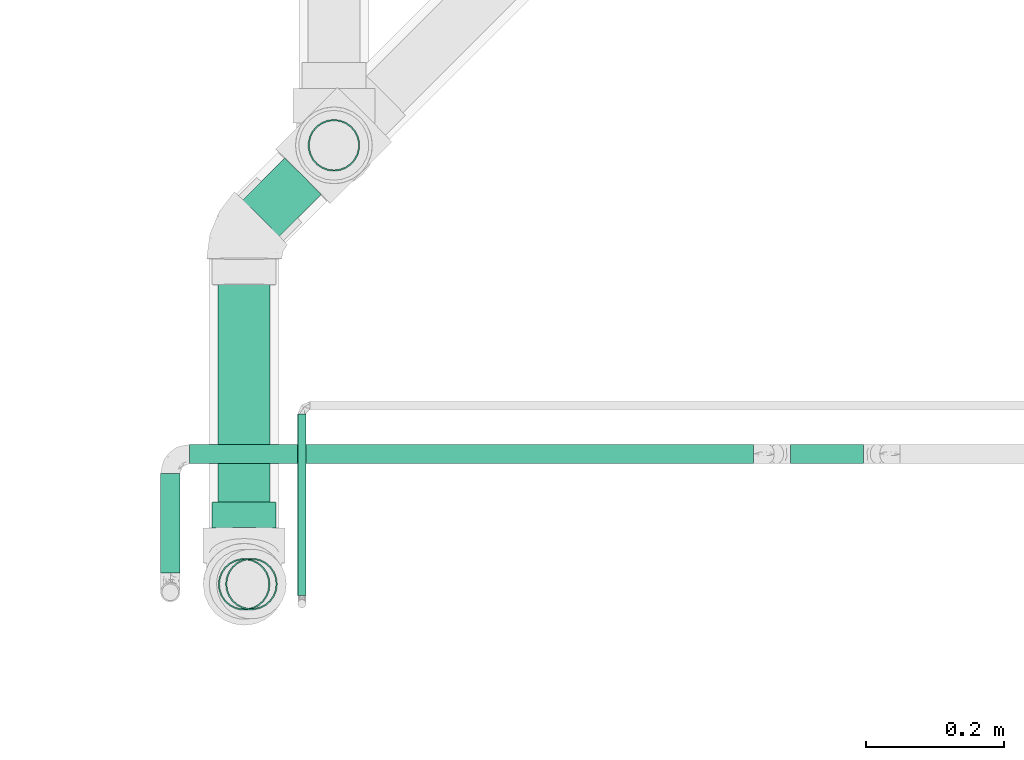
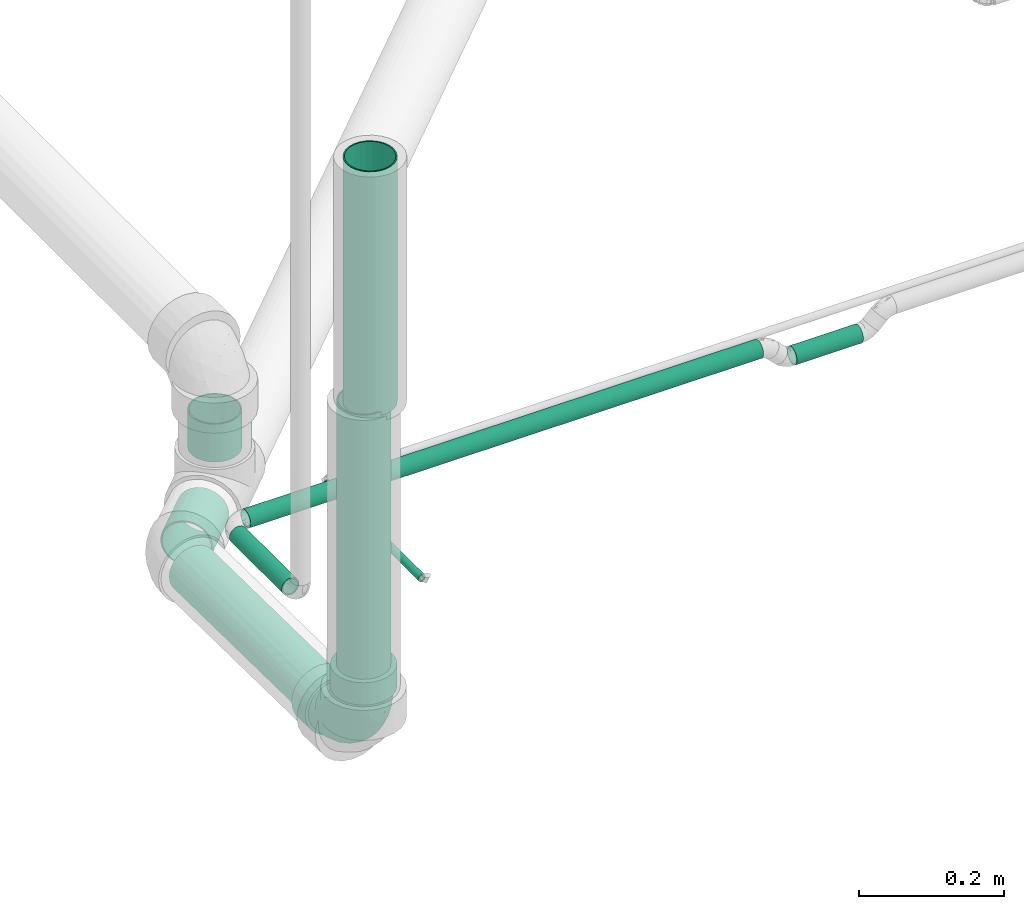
# One storey, part 54 of 156: 9 flow segments, 1 flow fitting.
"""IFC2X3 building model written with IfcOpenShell, lengths in millimetres."""

from ifc_helpers import new_model, entity, si_unit, converted_unit, derived_unit, direction, frame, origin_with_axes, origin_2d_with_axis, place, context, subcontext, project, spatial, hollow_circle, extrude, open_shell, surface_model, source, transform, mapped, type_object, element, save


model = new_model("IFC2X3")

# Units and contexts
model_context = context("Model", 3, precision=0.01, world=frame((0.0, 4.29681676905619e-09, 0.0)), true_north=direction((4.01073788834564e-13, 1.0)))
plan_context = context("Plan", 3, precision=0.01, world=frame((0.0, 4.29681676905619e-09, 0.0)), true_north=direction((4.01073788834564e-13, 1.0)))
body_context = subcontext(model_context, "Body", "Model", "MODEL_VIEW")
ifc_project = project(units=[converted_unit("PLANEANGLEUNIT", "DEGREE", entity("IfcPositiveLengthMeasure", 0.0174532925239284), si_unit("PLANEANGLEUNIT", "RADIAN"), dimensions=[0, 0, 0, 0, 0, 0, 0]), si_unit("AREAUNIT", "SQUARE_METRE"), si_unit("LENGTHUNIT", "METRE", prefix="MILLI"), si_unit("MASSUNIT", "GRAM", prefix="KILO"), si_unit("POWERUNIT", "WATT"), si_unit("PRESSUREUNIT", "PASCAL", prefix="KILO"), si_unit("FORCEUNIT", "NEWTON", prefix="KILO"), si_unit("ELECTRICVOLTAGEUNIT", "VOLT"), si_unit("ELECTRICCURRENTUNIT", "AMPERE"), si_unit("THERMODYNAMICTEMPERATUREUNIT", "DEGREE_CELSIUS"), si_unit("TIMEUNIT", "SECOND"), si_unit("VOLUMEUNIT", "CUBIC_METRE"), derived_unit("LINEARVELOCITYUNIT", [(si_unit("LENGTHUNIT", "METRE"), 1), (si_unit("TIMEUNIT", "SECOND"), -1)]), derived_unit("VOLUMETRICFLOWRATEUNIT", [(si_unit("VOLUMEUNIT", "CUBIC_METRE"), 1), (si_unit("TIMEUNIT", "SECOND"), -1)]), derived_unit("THERMALTRANSMITTANCEUNIT", [(si_unit("POWERUNIT", "WATT"), 1), (si_unit("THERMODYNAMICTEMPERATUREUNIT", "KELVIN"), -1), (si_unit("AREAUNIT", "SQUARE_METRE"), -1)]), derived_unit("SOUNDPRESSUREUNIT", [(si_unit("PRESSUREUNIT", "PASCAL"), 1)])], contexts=[model_context, plan_context])

# Site, building, storey
site_placement = place(None, frame((0.0, -4.29681676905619e-09, 0.0), z_axis=(0.0, 0.0, 1.0), x_axis=(1.0, 0.0, 0.0)))
site = spatial("IfcSite", under=ifc_project, at=site_placement, CompositionType="ELEMENT")
building_placement = place(site_placement, frame((0.0, 4.29681676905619e-09, 0.0), z_axis=(0.0, 0.0, 1.0), x_axis=(1.0, 0.0, 0.0)))
building = spatial("IfcBuilding", under=site, at=building_placement, Name="mc-building", CompositionType="ELEMENT")
storey_placement = place(building_placement, frame((0.0, 0.0, 205200.0), z_axis=(0.0, 0.0, 1.0), x_axis=(1.0, 0.0, 0.0)))
storey = spatial("IfcBuildingStorey", under=building, at=storey_placement, Name="Nivå D + 1,2 m", CompositionType="ELEMENT", Elevation=205200.0)

# Flow fitting
pipe_fitting_type = type_object("IfcPipeFittingType", Name="magi_sewer_bend_001", PredefinedType="BEND")
shared_shape_1 = source(origin_with_axes(), body_context, "Body", "SurfaceModel", [
    surface_model("IfcShellBasedSurfaceModel", [(-118.63645, -44.67407, -11.97038), (-118.63645, -11.97038, -44.67407), (-118.63645, -23.125, -40.05367), (-118.63645, -32.70369, -32.70369), (-118.63645, 0.0, -46.25), (-118.63645, -40.05367, -23.125), (-118.63645, -46.25, 0.0), (-118.63645, 11.97038, -44.67407), (-118.63645, 32.70369, -32.70369), (-118.63645, 23.125, -40.05367), (-118.63645, 44.67407, -11.97038), (-118.63645, 40.05367, -23.125), (-118.63645, -32.70369, 32.70369), (-118.63645, -44.67407, 11.97038), (-118.63645, -40.05367, 23.125), (-118.63645, 32.70369, 32.70369), (-118.63645, -23.125, 40.05367), (-118.63645, -11.97038, 44.67407), (-118.63645, 0.0, 46.25), (-118.63645, 44.67407, 11.97038), (-118.63645, 46.25, 0.0), (-118.63645, 40.05367, 23.125), (-118.63645, 11.97038, 44.67407), (-118.63645, 23.125, 40.05367), (-81.13645, 0.0, 46.25), (-81.13645, -11.97038, 44.67407), (-81.13645, -23.125, 40.05367), (-81.13645, -32.70369, 32.70369), (-81.13645, -40.05367, 23.125), (-81.13645, -44.67407, 11.97038), (-81.13645, 32.70369, 32.70369), (-81.13645, -44.67407, -11.97038), (-81.13645, 11.97038, 44.67407), (-81.13645, 23.125, 40.05367), (-81.13645, 44.67407, 11.97038), (-81.13645, 44.67407, -11.97038), (-81.13645, 46.25, 0.0), (-81.13645, 40.05367, 23.125), (-81.13645, -32.70369, -32.70369), (-81.13645, -40.05367, -23.125), (-81.13645, -23.125, -40.05367), (-81.13645, -11.97038, -44.67407), (-81.13645, 11.97038, -44.67407), (-81.13645, 32.70369, -32.70369), (-81.13645, 40.05367, -23.125), (-81.13645, 23.125, -40.05367), (-81.13645, 0.0, -46.25), (-81.13645, -46.25, 0.0), (-9.99172, 118.81946, 44.67407), (-42.69087, 119.36444, 11.97038), (-38.07111, 119.28745, 23.125), (-30.72215, 119.16497, 32.70369), (-30.72215, 119.16497, -32.70369), (-21.14479, 119.00535, 40.05367), (25.09879, 118.23462, -40.05367), (-9.99172, 118.81946, -44.67407), (-42.69087, 119.36444, -11.97038), (-38.07111, 119.28745, -23.125), (-44.26658, 119.39071, 0.0), (-21.14479, 119.00535, -40.05367), (1.977, 118.61999, 46.25), (34.67615, 118.075, 32.70369), (13.94572, 118.42051, 44.67407), (25.09879, 118.23462, 40.05367), (42.02511, 117.95251, 23.125), (46.64486, 117.87552, 11.97038), (48.22058, 117.84926, 0.0), (13.94572, 118.42051, -44.67407), (1.977, 118.61999, -46.25), (34.67615, 118.075, -32.70369), (46.64486, 117.87552, -11.97038), (42.02511, 117.95251, -23.125), (47.59566, 80.35446, 0.0), (46.01995, 80.38072, 11.97038), (41.4002, 80.45773, 23.125), (34.05123, 80.5802, 32.70369), (24.47388, 80.73983, 40.05367), (13.32081, 80.92571, 44.67407), (24.47388, 80.73983, -40.05367), (-10.61663, 81.32467, 44.67407), (46.01995, 80.38072, -11.97038), (34.05123, 80.5802, -32.70369), (41.4002, 80.45773, -23.125), (13.32081, 80.92571, -44.67407), (-10.61663, 81.32467, -44.67407), (1.35209, 81.12519, -46.25), (1.35209, 81.12519, 46.25), (-31.34706, 81.67018, 32.70369), (-21.7697, 81.51055, 40.05367), (-38.69603, 81.79266, 23.125), (-43.31578, 81.86966, -11.97038), (-43.31578, 81.86966, 11.97038), (-31.34706, 81.67018, -32.70369), (-21.7697, 81.51055, -40.05367), (-38.69603, 81.79266, -23.125), (-44.89149, 81.89592, 0.0), (-81.13645, 10.67629, -39.84444), (-81.13645, 0.0, -41.25), (-81.13645, 35.72355, -20.625), (-81.13645, 20.625, -35.72355), (-81.13645, -10.67629, -39.84444), (-81.13645, 29.16816, -29.16816), (-81.13645, 39.84444, -10.67629), (-81.13645, -29.16816, -29.16816), (-81.13645, -35.72355, -20.625), (-81.13645, -20.625, -35.72355), (-81.13645, -39.84444, -10.67629), (-81.13645, -41.25, 0.0), (-81.13645, -39.84444, 10.67629), (-81.13645, 41.25, 0.0), (-81.13645, 35.72355, 20.625), (-81.13645, 39.84444, 10.67629), (-81.13645, 10.67629, 39.84444), (-81.13645, 20.625, 35.72355), (-81.13645, 29.16816, 29.16816), (-81.13645, 0.0, 41.25), (-81.13645, -35.72355, 20.625), (-81.13645, -29.16816, 29.16816), (-81.13645, -10.67629, 39.84444), (-81.13645, -20.625, 35.72355), (-9.32272, 81.3031, -39.84444), (30.51619, 80.63912, 29.16816), (1.35209, 81.12519, -41.25), (-34.3665, 81.7205, -20.625), (-19.27005, 81.46889, -35.72355), (21.97422, 80.78149, -35.72355), (-27.81202, 81.61126, -29.16816), (-34.3665, 81.7205, 20.625), (30.51619, 80.63912, -29.16816), (12.02689, 80.94728, -39.84444), (41.191, 80.46121, -10.67629), (41.191, 80.46121, 10.67629), (42.59636, 80.43779, 0.0), (37.07067, 80.52988, -20.625), (-38.48682, 81.78918, -10.67629), (-39.89219, 81.81259, 0.0), (-38.48682, 81.78918, 10.67629), (-19.27005, 81.46889, 35.72355), (-27.81202, 81.61126, 29.16816), (-9.32272, 81.3031, 39.84444), (37.07067, 80.52988, 20.625), (12.02689, 80.94728, 39.84444), (21.97422, 80.78149, 35.72355), (1.35209, 81.12519, 41.25), (-54.39442, -36.17404, 12.99457), (-59.16193, -32.03479, 23.17612), (-43.28809, -35.32005, 0.0), (-60.84196, -38.07033, 0.0), (23.37041, 18.86095, 10.62349), (15.01238, 9.79779, 15.95055), (11.94444, 2.36888, 8.70418), (-61.88845, -5.46813, 40.5533), (-56.57345, 6.31813, 41.17681), (32.38619, 35.45125, 8.39828), (27.1418, 25.72883, 0.0), (-58.98118, -15.54274, 37.10832), (-30.85607, -9.76023, 34.5265), (-40.12451, -0.47476, 40.00525), (-68.72839, -25.45103, 31.89237), (-35.98602, -31.79092, 8.39828), (-26.17756, -26.70928, 0.0), (-6.74396, 6.85729, 33.83574), (-14.04648, -9.83948, 26.468), (-39.19131, 65.31528, 17.88497), (-14.23306, 70.22892, 38.62481), (-4.65309, 60.53836, 41.14609), (-62.27481, 16.19182, 38.95705), (-10.07336, 26.71188, 40.49708), (-19.56807, 7.50587, 38.60631), (-3.30313, 21.70945, 37.91013), (-70.23759, 24.97294, 33.58539), (-13.65396, 39.94702, 41.16014), (-29.72786, 30.22745, 40.21467), (-23.93531, 17.70774, 41.06244), (-62.06374, 44.71052, 9.37653), (-64.65311, 40.27431, 17.88497), (26.59281, 68.29472, 31.89237), (-63.23862, 34.37113, 27.04031), (-42.66984, 45.56196, 29.16641), (-51.8902, 44.18713, 22.91415), (-33.39862, 63.50778, 27.07262), (16.52346, 58.71398, 37.10832), (24.38357, 51.08549, 30.6589), (33.01624, 58.61988, 23.17612), (25.6206, 31.60074, 20.54424), (37.07546, 53.78405, 12.99457), (-9.06702, -18.0985, 0.0), (-19.24778, -23.05286, 10.62349), (6.4987, 61.78873, 40.5533), (-44.29082, 17.50905, 40.50755), (-39.59673, 10.04822, 41.2375), (18.24709, 8.76416, 0.0), (39.07893, 60.1991, 0.0), (-43.03932, 27.67385, 38.13016), (-32.0233, -25.09044, 20.54424), (-51.48473, -23.52888, 30.6589), (-29.00264, 52.56785, 34.64816), (-24.07159, 68.2883, 33.76756), (-50.57861, 53.84244, 7.25586), (-60.71022, 46.66243, 0.0), (19.67072, 31.77171, 27.9348), (10.27307, 30.68913, 34.5265), (10.07219, 13.88056, 26.468), (-45.64426, 61.47939, 0.0), (-41.82083, 67.74942, 7.78687), (-37.43075, 42.9787, 33.8492), (-55.83247, 27.89915, 34.6893), (-31.91377, -18.01784, 28.91129), (-22.76666, 42.19771, 39.59466), (-32.08476, 39.39323, 37.49357), (-16.86515, 55.15006, 39.26198), (-50.12448, 50.96685, 15.38789), (1.14334, 40.11103, 40.00525), (-2.41073, -11.82067, 8.53117), (-9.77489, -14.76888, 15.71619), (-2.34518, 2.38459, 28.45121), (3.16609, -3.21929, 16.67866), (36.03651, 42.69349, 0.0), (4.59003, -4.66717, 0.0), (-62.94239, 34.4523, -27.07262), (-32.0951, -19.13853, -27.9348), (-30.85607, -9.76023, -34.5265), (-14.04648, -9.83948, -26.46799), (-60.45241, 5.66128, -41.14609), (16.52346, 58.71398, -37.10832), (10.27307, 30.68913, -34.5265), (1.14334, 40.11103, -40.00525), (-69.98198, 15.4014, -38.62481), (-23.79901, 70.644, -33.58539), (-33.31253, 63.80261, -27.04031), (-67.04309, 42.94403, -7.78687), (10.07219, 13.88056, -26.468), (18.54716, 31.60909, -28.91129), (-64.65311, 40.27431, -17.88497), (11.94444, 2.36888, -8.70418), (15.01238, 9.79779, -15.95055), (23.37041, 18.86095, -10.62349), (-38.85309, 32.73676, -37.49358), (-41.81246, 23.4667, -39.59466), (-52.07724, 29.87463, -34.64816), (-6.74396, 6.85729, -33.83574), (-26.5403, 10.5171, -40.49708), (-7.17874, 19.69043, -38.60631), (-21.65139, 3.66445, -37.91013), (-67.87768, 25.20623, -33.76756), (-54.39442, -36.17404, -12.99457), (-44.84457, 43.42318, -29.16641), (-59.16193, -32.03479, -23.17612), (-32.0233, -25.09044, -20.54424), (-19.24778, -23.05286, -10.62349), (-35.98602, -31.79092, -8.39828), (-58.98118, -15.54274, -37.10832), (-61.88845, -5.46813, -40.5533), (-54.86135, 17.78185, -39.26198), (-39.71394, 14.31775, -41.16014), (-15.15181, 62.53599, -38.95705), (-5.37449, 56.67088, -41.17681), (-43.67006, 62.80019, -9.37653), (-52.99211, 51.46884, -7.25586), (-26.95278, 43.49451, -38.13017), (-16.76854, 44.57645, -40.50755), (-43.31628, 52.61934, -22.91415), (6.49871, 61.78872, -40.5533), (-2.41073, -11.82067, -8.53117), (37.07546, 53.78405, -12.99457), (33.01624, 58.61988, -23.17612), (-68.72839, -25.45103, -31.89237), (-29.72786, 30.22745, -40.21467), (-17.30642, 24.22707, -41.06244), (26.59281, 68.29472, -31.89237), (-51.48473, -23.52888, -30.6589), (-39.19132, 65.31528, -17.88497), (32.38619, 35.45125, -8.39828), (-42.34897, 38.14177, -33.8492), (-26.96486, 56.28963, -34.6893), (25.62061, 31.60074, -20.54424), (24.38358, 51.08549, -30.6589), (-9.38697, 39.75868, -41.2375), (-50.12448, 50.96685, -15.38789), (-40.12451, -0.47476, -40.00525), (0.23726, -0.24125, -23.998), (-9.77489, -14.76888, -15.71619), (3.16609, -3.2193, -16.67866)], [open_shell([[[0, 1, 2]], [[0, 2, 3]], [[1, 0, 4]], [[0, 3, 5]], [[4, 0, 6]], [[7, 8, 9]], [[8, 7, 4]], [[8, 10, 11]], [[10, 8, 4]], [[4, 6, 10]], [[6, 12, 10]], [[13, 14, 12]], [[10, 12, 15]], [[16, 17, 18]], [[16, 18, 12]], [[15, 12, 18]], [[10, 19, 20]], [[10, 21, 19]], [[15, 22, 23]], [[10, 15, 21]], [[18, 22, 15]], [[6, 13, 12]], [[24, 25, 26]], [[24, 26, 27]], [[27, 28, 29]], [[24, 27, 30]], [[27, 31, 30]], [[32, 30, 33]], [[32, 24, 30]], [[34, 35, 36]], [[37, 35, 34]], [[37, 30, 35]], [[27, 29, 31]], [[35, 30, 31]], [[38, 31, 39]], [[40, 41, 31]], [[40, 31, 38]], [[42, 31, 41]], [[35, 43, 44]], [[35, 31, 43]], [[43, 42, 45]], [[31, 42, 43]], [[41, 46, 42]], [[31, 29, 47]], [[35, 10, 36]], [[44, 11, 35]], [[9, 43, 45]], [[44, 43, 8]], [[7, 45, 42]], [[35, 11, 10]], [[10, 20, 36]], [[7, 9, 45]], [[8, 43, 9]], [[8, 11, 44]], [[4, 7, 42]], [[42, 46, 4]], [[46, 41, 1]], [[5, 39, 31]], [[39, 3, 38]], [[0, 31, 47]], [[1, 40, 2]], [[40, 1, 41]], [[40, 38, 2]], [[38, 3, 2]], [[39, 5, 3]], [[0, 5, 31]], [[47, 6, 0]], [[46, 1, 4]], [[29, 13, 47]], [[28, 14, 29]], [[16, 27, 26]], [[28, 27, 12]], [[17, 26, 25]], [[29, 14, 13]], [[13, 6, 47]], [[17, 16, 26]], [[12, 27, 16]], [[12, 14, 28]], [[18, 17, 25]], [[25, 24, 18]], [[30, 23, 33]], [[34, 21, 37]], [[30, 37, 15]], [[19, 34, 36]], [[33, 22, 32]], [[33, 23, 22]], [[22, 18, 32]], [[30, 15, 23]], [[37, 21, 15]], [[19, 21, 34]], [[36, 20, 19]], [[32, 18, 24]], [[48, 49, 50]], [[48, 50, 51]], [[49, 48, 52]], [[48, 51, 53]], [[54, 55, 48]], [[56, 52, 57]], [[56, 58, 49]], [[52, 55, 59]], [[56, 49, 52]], [[48, 55, 52]], [[48, 60, 61]], [[62, 63, 61]], [[48, 61, 54]], [[64, 65, 66]], [[64, 66, 61]], [[54, 61, 66]], [[55, 67, 68]], [[54, 67, 55]], [[69, 70, 71]], [[69, 54, 66]], [[70, 69, 66]], [[60, 62, 61]], [[72, 73, 74]], [[72, 74, 75]], [[75, 76, 77]], [[72, 75, 78]], [[75, 79, 78]], [[80, 81, 82]], [[80, 72, 81]], [[83, 84, 85]], [[81, 72, 78]], [[83, 78, 84]], [[75, 77, 86]], [[84, 78, 79]], [[87, 79, 88]], [[79, 89, 90]], [[89, 79, 87]], [[91, 90, 89]], [[84, 92, 93]], [[84, 79, 92]], [[92, 90, 94]], [[79, 90, 92]], [[91, 95, 90]], [[79, 75, 86]], [[84, 55, 85]], [[93, 59, 84]], [[57, 92, 94]], [[93, 92, 52]], [[56, 94, 90]], [[84, 59, 55]], [[55, 68, 85]], [[56, 57, 94]], [[52, 92, 57]], [[52, 59, 93]], [[58, 56, 90]], [[90, 95, 58]], [[95, 91, 49]], [[53, 88, 79]], [[88, 51, 87]], [[48, 79, 86]], [[49, 89, 50]], [[89, 49, 91]], [[89, 87, 50]], [[87, 51, 50]], [[88, 53, 51]], [[48, 53, 79]], [[86, 60, 48]], [[95, 49, 58]], [[77, 62, 86]], [[76, 63, 77]], [[64, 75, 74]], [[76, 75, 61]], [[65, 74, 73]], [[77, 63, 62]], [[62, 60, 86]], [[65, 64, 74]], [[61, 75, 64]], [[61, 63, 76]], [[66, 65, 73]], [[73, 72, 66]], [[81, 71, 82]], [[83, 54, 78]], [[81, 78, 69]], [[67, 83, 85]], [[82, 70, 80]], [[82, 71, 70]], [[70, 66, 80]], [[81, 69, 71]], [[78, 54, 69]], [[67, 54, 83]], [[85, 68, 67]], [[80, 66, 72]], [[96, 97, 98]], [[99, 96, 98]], [[100, 98, 97]], [[101, 99, 98]], [[102, 98, 100]], [[103, 104, 105]], [[100, 105, 104]], [[104, 106, 100]], [[106, 102, 100]], [[107, 108, 106]], [[109, 102, 106]], [[110, 111, 109]], [[108, 110, 106]], [[112, 113, 114]], [[108, 114, 110]], [[114, 115, 112]], [[116, 117, 108]], [[118, 108, 117]], [[119, 118, 117]], [[118, 114, 108]], [[118, 115, 114]], [[109, 106, 110]], [[120, 121, 122]], [[123, 120, 124]], [[121, 125, 122]], [[123, 124, 126]], [[127, 120, 123]], [[125, 121, 128]], [[125, 129, 122]], [[130, 131, 132]], [[133, 131, 130]], [[128, 131, 133]], [[123, 134, 135]], [[135, 136, 127]], [[127, 121, 120]], [[127, 137, 121]], [[137, 127, 138]], [[139, 121, 137]], [[131, 121, 140]], [[128, 121, 131]], [[121, 141, 142]], [[141, 121, 143]], [[139, 143, 121]], [[127, 123, 135]], [[144, 145, 116]], [[146, 144, 147]], [[148, 149, 150]], [[144, 116, 108]], [[108, 147, 144]], [[115, 151, 152]], [[117, 116, 145]], [[153, 148, 154]], [[155, 156, 157]], [[158, 119, 117]], [[155, 119, 158]], [[159, 146, 160]], [[161, 156, 162]], [[163, 127, 136]], [[139, 164, 165]], [[112, 166, 113]], [[167, 168, 169]], [[113, 170, 114]], [[118, 151, 115]], [[171, 172, 173]], [[174, 111, 175]], [[175, 111, 110]], [[176, 121, 142]], [[109, 111, 174]], [[177, 178, 179]], [[180, 163, 178]], [[177, 110, 114]], [[115, 152, 112]], [[181, 182, 176]], [[114, 170, 177]], [[183, 184, 185]], [[180, 127, 163]], [[160, 186, 187]], [[143, 188, 141]], [[160, 187, 159]], [[143, 139, 165]], [[189, 190, 173]], [[185, 131, 140]], [[140, 121, 183]], [[183, 185, 140]], [[148, 191, 154]], [[185, 192, 131]], [[193, 166, 189]], [[145, 194, 195]], [[180, 196, 197]], [[198, 199, 174]], [[200, 201, 202]], [[203, 204, 135]], [[193, 205, 206]], [[163, 136, 204]], [[181, 142, 141]], [[180, 138, 127]], [[162, 156, 207]], [[208, 196, 209]], [[119, 155, 118]], [[197, 137, 138]], [[164, 139, 137]], [[210, 171, 165]], [[182, 181, 201]], [[153, 184, 148]], [[196, 180, 178]], [[166, 112, 152]], [[206, 178, 177]], [[175, 179, 211]], [[210, 208, 171]], [[188, 165, 212]], [[156, 155, 195]], [[151, 155, 157]], [[207, 194, 162]], [[156, 161, 168]], [[188, 181, 141]], [[168, 161, 169]], [[212, 201, 181]], [[201, 161, 202]], [[184, 200, 202]], [[187, 213, 214]], [[194, 145, 144]], [[158, 145, 195]], [[176, 183, 121]], [[184, 183, 182]], [[189, 166, 152]], [[170, 166, 206]], [[193, 209, 205]], [[210, 164, 197]], [[177, 175, 110]], [[174, 175, 211]], [[198, 204, 203]], [[211, 179, 163]], [[214, 194, 187]], [[215, 216, 202]], [[162, 215, 161]], [[149, 216, 150]], [[189, 173, 172]], [[212, 165, 171]], [[168, 173, 157]], [[171, 173, 167]], [[165, 188, 143]], [[181, 188, 212]], [[155, 151, 118]], [[152, 151, 157]], [[108, 107, 147]], [[192, 185, 217]], [[192, 132, 131]], [[213, 187, 186]], [[159, 194, 144]], [[213, 150, 216]], [[185, 153, 217]], [[184, 202, 149]], [[189, 152, 190]], [[193, 189, 172]], [[209, 193, 172]], [[166, 193, 206]], [[208, 209, 172]], [[205, 209, 196]], [[198, 174, 211]], [[174, 199, 109]], [[204, 211, 163]], [[199, 198, 203]], [[204, 198, 211]], [[135, 204, 136]], [[152, 157, 190]], [[157, 173, 190]], [[171, 208, 172]], [[196, 208, 210]], [[177, 179, 175]], [[163, 179, 178]], [[218, 191, 150]], [[214, 213, 216]], [[150, 213, 218]], [[191, 148, 150]], [[213, 186, 218]], [[184, 149, 148]], [[202, 216, 149]], [[216, 162, 214]], [[194, 214, 162]], [[196, 178, 205]], [[206, 205, 178]], [[180, 197, 138]], [[210, 197, 196]], [[156, 168, 157]], [[161, 201, 169]], [[201, 212, 169]], [[167, 169, 212]], [[171, 167, 212]], [[168, 167, 173]], [[194, 159, 187]], [[146, 159, 144]], [[217, 153, 154]], [[184, 153, 185]], [[166, 170, 113]], [[177, 170, 206]], [[197, 164, 137]], [[165, 164, 210]], [[145, 158, 117]], [[155, 158, 195]], [[181, 176, 142]], [[183, 176, 182]], [[156, 195, 207]], [[194, 207, 195]], [[184, 182, 200]], [[201, 200, 182]], [[216, 215, 162]], [[202, 161, 215]], [[98, 219, 101]], [[220, 221, 222]], [[97, 96, 223]], [[224, 225, 226]], [[96, 99, 227]], [[126, 228, 229]], [[199, 230, 109]], [[231, 225, 232]], [[233, 102, 230]], [[234, 235, 236]], [[237, 238, 239]], [[225, 231, 240]], [[241, 242, 243]], [[244, 99, 101]], [[104, 245, 106]], [[125, 224, 129]], [[245, 147, 106]], [[239, 219, 246]], [[245, 104, 247]], [[219, 98, 233]], [[248, 249, 250]], [[219, 233, 246]], [[251, 105, 100]], [[130, 132, 192]], [[252, 100, 97]], [[248, 245, 247]], [[253, 254, 223]], [[255, 120, 256]], [[257, 258, 203]], [[259, 255, 260]], [[135, 134, 257]], [[219, 239, 244]], [[261, 229, 246]], [[122, 262, 256]], [[234, 218, 263]], [[126, 124, 228]], [[255, 124, 120]], [[264, 265, 133]], [[122, 129, 262]], [[98, 102, 233]], [[266, 103, 105]], [[126, 229, 123]], [[254, 267, 268]], [[269, 224, 125]], [[270, 266, 251]], [[257, 134, 271]], [[122, 256, 120]], [[217, 154, 272]], [[128, 133, 265]], [[269, 125, 128]], [[264, 130, 192]], [[270, 251, 221]], [[264, 192, 217]], [[249, 186, 160]], [[154, 191, 236]], [[130, 264, 133]], [[259, 273, 274]], [[96, 227, 223]], [[265, 275, 276]], [[134, 123, 271]], [[260, 277, 268]], [[104, 103, 247]], [[274, 246, 229]], [[271, 261, 278]], [[253, 238, 254]], [[252, 223, 279]], [[252, 251, 100]], [[242, 240, 243]], [[279, 221, 251]], [[221, 240, 222]], [[225, 224, 276]], [[262, 224, 226]], [[232, 275, 231]], [[225, 240, 242]], [[250, 249, 160]], [[248, 220, 222]], [[266, 247, 103]], [[248, 247, 270]], [[275, 265, 264]], [[269, 265, 276]], [[260, 255, 256]], [[228, 255, 274]], [[259, 237, 273]], [[253, 227, 244]], [[229, 271, 123]], [[257, 271, 278]], [[258, 230, 199]], [[278, 261, 233]], [[280, 240, 231]], [[281, 282, 263]], [[235, 275, 236]], [[280, 282, 281]], [[260, 268, 267]], [[279, 223, 254]], [[242, 268, 226]], [[254, 268, 241]], [[223, 252, 97]], [[251, 252, 279]], [[224, 262, 129]], [[256, 262, 226]], [[147, 245, 146]], [[147, 107, 106]], [[249, 263, 186]], [[245, 250, 146]], [[248, 222, 281]], [[154, 236, 272]], [[234, 263, 282]], [[272, 275, 264]], [[260, 256, 277]], [[259, 260, 267]], [[237, 259, 267]], [[255, 259, 274]], [[238, 237, 267]], [[273, 237, 239]], [[258, 257, 278]], [[257, 203, 135]], [[230, 278, 233]], [[203, 258, 199]], [[230, 258, 278]], [[109, 230, 102]], [[256, 226, 277]], [[226, 268, 277]], [[254, 238, 267]], [[239, 238, 253]], [[229, 261, 271]], [[233, 261, 246]], [[281, 263, 249]], [[235, 234, 282]], [[236, 191, 234]], [[280, 235, 282]], [[218, 234, 191]], [[218, 186, 263]], [[275, 235, 231]], [[248, 281, 249]], [[280, 281, 222]], [[239, 246, 273]], [[274, 273, 246]], [[219, 244, 101]], [[253, 244, 239]], [[225, 242, 226]], [[240, 221, 243]], [[221, 279, 243]], [[241, 243, 279]], [[254, 241, 279]], [[242, 241, 268]], [[146, 250, 160]], [[248, 250, 245]], [[275, 272, 236]], [[217, 272, 264]], [[255, 228, 124]], [[229, 228, 274]], [[244, 227, 99]], [[223, 227, 253]], [[251, 266, 105]], [[247, 266, 270]], [[265, 269, 128]], [[224, 269, 276]], [[248, 270, 220]], [[221, 220, 270]], [[225, 276, 232]], [[275, 232, 276]], [[240, 280, 222]], [[235, 280, 231]]])]),
])
flow_fitting_placement = place(storey_placement, frame((322648.61247, 462125.10082, 4042.36812), z_axis=(-1.0, 0.0, 0.0), x_axis=(0.0, -0.999861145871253, 0.0166640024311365)))
element("IfcFlowFitting", 1, at=flow_fitting_placement, inside=storey, type_object=pipe_fitting_type, Name="magi_sewer_bend_001", context=body_context, shape_type="MappedRepresentation", body=[
    mapped(shared_shape_1, transform((0.0, 0.0, 0.0), scale=1.0)),
])

# Flow segments
pipe_segment_type_1 = type_object("IfcPipeSegmentType", Name="MA", PredefinedType="RIGIDSEGMENT")
shared_shape_2 = source(origin_with_axes(), body_context, "Body", "SweptSolid", [
    extrude(hollow_circle(Radius=37.5, WallThickness=2.0, at=origin_2d_with_axis()), frame((0.0, 0.0, 0.0), z_axis=(1.0, 0.0, 0.0), x_axis=(0.0, 1.0, 0.0)), (0.0, 0.0, 1.0), 412.0),
])
flow_segment_1_placement = place(storey_placement, frame((322659.16821, 462125.55139, 4598.01287999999), z_axis=(0.0, 1.0, 0.0), x_axis=(0.0, 0.0, 1.0)))
element("IfcFlowSegment", 2, at=flow_segment_1_placement, inside=storey, type_object=pipe_segment_type_1, Name="MA", context=body_context, shape_type="MappedRepresentation", body=[
    mapped(shared_shape_2, transform((0.0, 0.0, 0.0), scale=1.0)),
])
pipe_segment_type_2 = type_object("IfcPipeSegmentType", Name="Kobberrør", PredefinedType="RIGIDSEGMENT")
shared_shape_3 = source(origin_with_axes(), body_context, "Body", "SweptSolid", [
    extrude(hollow_circle(Radius=6.0, WallThickness=2.0, at=origin_2d_with_axis()), frame((0.0, 0.0, 0.0), z_axis=(1.0, 0.0, 0.0), x_axis=(0.0, 1.0, 0.0)), (0.0, 0.0, 1.0), 262.7),
])
flow_segment_2_placement = place(storey_placement, frame((322732.1022, 462371.7286, 4285.29988999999), z_axis=(0.0, 0.0, 1.0), x_axis=(0.0, -1.0, 0.0)))
element("IfcFlowSegment", 3, at=flow_segment_2_placement, inside=storey, type_object=pipe_segment_type_2, Name="Kobberrør", context=body_context, shape_type="MappedRepresentation", body=[
    mapped(shared_shape_3, transform((0.0, 0.0, 0.0), scale=1.0)),
])
shared_shape_4 = source(origin_with_axes(), body_context, "Body", "SweptSolid", [
    extrude(hollow_circle(Radius=37.5, WallThickness=2.0, at=origin_2d_with_axis()), frame((0.0, 0.0, 0.0), z_axis=(1.0, 0.0, 0.0), x_axis=(0.0, 1.0, 0.0)), (0.0, 0.0, 1.0), 63.7),
])
flow_segment_3_placement = place(storey_placement, frame((322778.39808, 462759.88016, 4159.13939), z_axis=(1.0, 0.0, 0.0), x_axis=(0.0, 0.0, -1.0)))
element("IfcFlowSegment", 4, at=flow_segment_3_placement, inside=storey, type_object=pipe_segment_type_1, Name="MA", context=body_context, shape_type="MappedRepresentation", body=[
    mapped(shared_shape_4, transform((0.0, 0.0, 0.0), scale=1.0)),
])
shared_shape_5 = source(origin_with_axes(), body_context, "Body", "SweptSolid", [
    extrude(hollow_circle(Radius=14.0, WallThickness=2.0, at=origin_2d_with_axis()), frame((0.0, 0.0, 0.0), z_axis=(1.0, 0.0, 0.0), x_axis=(0.0, 1.0, 0.0)), (0.0, 0.0, 1.0), 815.6),
])
flow_segment_4_placement = place(storey_placement, frame((323385.32987, 462313.63355, 4318.0), z_axis=(0.0, 0.0, 1.0), x_axis=(-1.0, 0.0, 0.0)))
element("IfcFlowSegment", 5, at=flow_segment_4_placement, inside=storey, type_object=pipe_segment_type_2, Name="Kobberrør", context=body_context, shape_type="MappedRepresentation", body=[
    mapped(shared_shape_5, transform((0.0, 0.0, 0.0), scale=1.0)),
])
shared_shape_6 = source(origin_with_axes(), body_context, "Body", "SweptSolid", [
    extrude(hollow_circle(Radius=14.0, WallThickness=2.0, at=origin_2d_with_axis()), frame((0.0, 0.0, 0.0), z_axis=(1.0, 0.0, 0.0), x_axis=(0.0, 1.0, 0.0)), (0.0, 0.0, 1.0), 144.0),
])
flow_segment_5_placement = place(storey_placement, frame((322541.76693, 462141.63355, 4318.0), z_axis=(0.0, 0.0, 1.0), x_axis=(0.0, 1.0, 0.0)))
element("IfcFlowSegment", 6, at=flow_segment_5_placement, inside=storey, type_object=pipe_segment_type_2, Name="Kobberrør", context=body_context, shape_type="MappedRepresentation", body=[
    mapped(shared_shape_6, transform((0.0, 0.0, 0.0), scale=1.0, scale2=1.0, scale3=1.0, uniform=False)),
])
shared_shape_7 = source(origin_with_axes(), body_context, "Body", "SweptSolid", [
    extrude(hollow_circle(Radius=37.5, WallThickness=2.0, at=origin_2d_with_axis()), frame((0.0, 0.0, 0.0), z_axis=(1.0, 0.0, 0.0), x_axis=(0.0, 1.0, 0.0)), (0.0, 0.0, 1.0), 85.8),
])
flow_segment_6_placement = place(storey_placement, frame((322733.46368, 462714.91581, 4031.69910999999), z_axis=(-0.707121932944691, 0.70705793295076, -0.00690299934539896), x_axis=(-0.707057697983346, -0.706958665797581, 0.0166989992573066)))
element("IfcFlowSegment", 7, at=flow_segment_6_placement, inside=storey, type_object=pipe_segment_type_1, Name="MA", context=body_context, shape_type="MappedRepresentation", body=[
    mapped(shared_shape_7, transform((0.0, 0.0, 0.0), scale=1.0)),
])
shared_shape_8 = source(origin_with_axes(), body_context, "Body", "SweptSolid", [
    extrude(hollow_circle(Radius=37.5, WallThickness=2.0, at=origin_2d_with_axis()), frame((0.0, 0.0, 0.0), z_axis=(1.0, 0.0, 0.0), x_axis=(0.0, 1.0, 0.0)), (0.0, 0.0, 1.0), 389.7),
])
flow_segment_7_placement = place(storey_placement, frame((322648.61247, 462595.9149, 4034.52122), z_axis=(0.0, 0.0166640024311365, 0.999861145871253), x_axis=(0.0, -0.999861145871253, 0.0166640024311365)))
element("IfcFlowSegment", 8, at=flow_segment_7_placement, inside=storey, type_object=pipe_segment_type_1, Name="MA", context=body_context, shape_type="MappedRepresentation", body=[
    mapped(shared_shape_8, transform((0.0, 0.0, 0.0), scale=1.0)),
])
shared_shape_9 = source(origin_with_axes(), body_context, "Body", "SweptSolid", [
    extrude(hollow_circle(Radius=37.5, WallThickness=2.0, at=origin_2d_with_axis()), frame((0.0, 0.0, 0.0), z_axis=(1.0, 0.0, 0.0), x_axis=(0.0, 1.0, 0.0)), (0.0, 0.0, 1.0), 481.5),
])
flow_segment_8_placement = place(storey_placement, frame((322648.61247, 462125.10082, 4123.50458000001), z_axis=(0.0, 1.0, 0.0), x_axis=(0.0, 0.0, 1.0)))
element("IfcFlowSegment", 9, at=flow_segment_8_placement, inside=storey, type_object=pipe_segment_type_1, Name="MA", context=body_context, shape_type="MappedRepresentation", body=[
    mapped(shared_shape_9, transform((0.0, 0.0, 0.0), scale=1.0)),
])
shared_shape_10 = source(origin_with_axes(), body_context, "Body", "SweptSolid", [
    extrude(hollow_circle(Radius=14.0, WallThickness=2.0, at=origin_2d_with_axis()), frame((0.0, 0.0, 0.0), z_axis=(1.0, 0.0, 0.0), x_axis=(0.0, 1.0, 0.0)), (0.0, 0.0, 1.0), 105.5),
])
flow_segment_9_placement = place(storey_placement, frame((323544.02139, 462313.63355, 4288.0), z_axis=(0.0, 0.0, 1.0), x_axis=(-1.0, 0.0, 0.0)))
element("IfcFlowSegment", 10, at=flow_segment_9_placement, inside=storey, type_object=pipe_segment_type_2, Name="Kobberrør", context=body_context, shape_type="MappedRepresentation", body=[
    mapped(shared_shape_10, transform((0.0, 0.0, 0.0), scale=1.0)),
])

save(model, "model.ifc")
